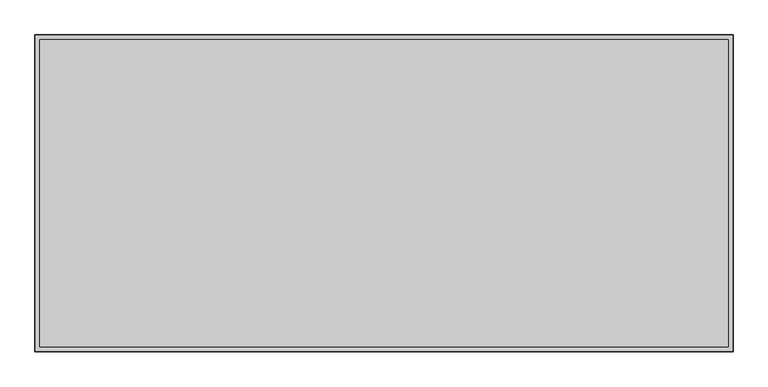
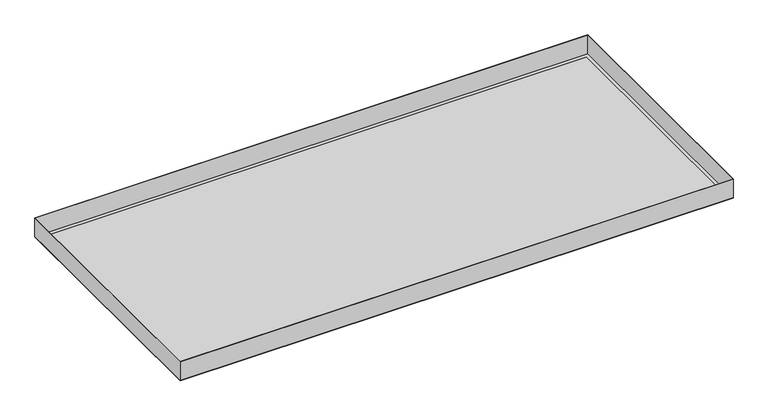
"""IFC4 building model written with IfcOpenShell, lengths in millimetres: proxy geometry, durlum_S5-100_panel : durlum_S5-100_panel_wall_width_cut."""

from ifc_helpers import new_model, si_unit, frame, origin, origin_with_axes, place, context, project, spatial, polyline, outline, extrude, source, transform, mapped, element, save


def generic_models_fc0800be(model_context):
    return source(origin(), model_context, "Body", "SweptSolid", [
        extrude(outline(polyline([(549.5, 249.75), (549.5, -249.75), (-549.5, -249.75), (-549.5, 249.75), (549.5, 249.75)]), holes=[polyline([(548.9, 249.15), (-548.9, 249.15), (-548.9, -249.15), (548.9, -249.15), (548.9, 249.15)])]), frame((0.0, 0.0, 0.6), z_axis=(0.0, 0.0, 1.0), x_axis=(1.0, 0.0, 0.0)), (0.0, 0.0, 1.0), 39.4),
        extrude(outline(polyline([(541.5, 241.75), (541.5, -241.75), (-541.5, -241.75), (-541.5, 241.75), (541.5, 241.75)])), frame((0.0, 0.0, 0.6), z_axis=(0.0, 0.0, 1.0), x_axis=(1.0, 0.0, 0.0)), (0.0, 0.0, 1.0), 0.6),
        extrude(outline(polyline([(549.5, 249.75), (549.5, -249.75), (-549.5, -249.75), (-549.5, 249.75), (549.5, 249.75)]), holes=[polyline([(541.5, 241.75), (-541.5, 241.75), (-541.5, -241.75), (541.5, -241.75), (541.5, 241.75)])]), origin_with_axes(), (0.0, 0.0, 1.0), 0.6),
        extrude(outline(polyline([(541.5, 241.75), (541.5, -241.75), (-541.5, -241.75), (-541.5, 241.75), (541.5, 241.75)])), origin_with_axes(), (0.0, 0.0, 1.0), 0.6),
    ])


if __name__ == "__main__":
    model = new_model("IFC4")
    model_context = context("Model", 3, world=origin())
    ifc_project = project(units=[si_unit("LENGTHUNIT", "METRE", prefix="MILLI")], contexts=[model_context])
    site = spatial("IfcSite", under=ifc_project)
    building = spatial("IfcBuilding", under=site)
    placement = place(None, origin())
    generic_models_shape = generic_models_fc0800be(model_context)
    element("IfcBuildingElementProxy", 1, Name="durlum_S5-100_panel : durlum_S5-100_panel_wall_width_cut", ObjectType="durlum_S5-100_panel : durlum_S5-100_panel_wall_width_cut", at=placement, inside=building, context=model_context, shape_type="MappedRepresentation", body=[
        mapped(generic_models_shape, transform((0.0, 0.0, 0.0), x_axis=(1.0, 0.0, 0.0), y_axis=(0.0, 1.0, 0.0), z_axis=(0.0, 0.0, 1.0))),
    ])
    save(model, "model.ifc")
